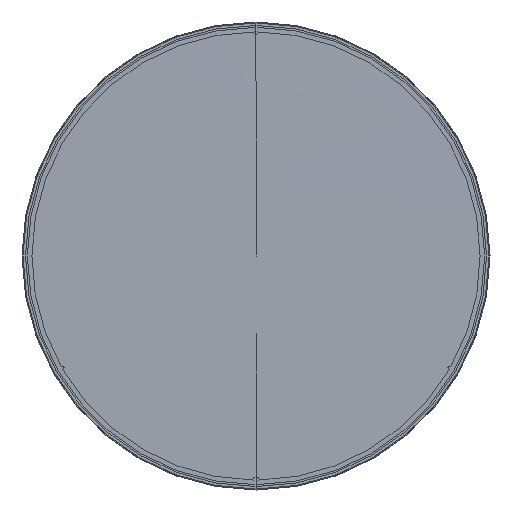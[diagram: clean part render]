
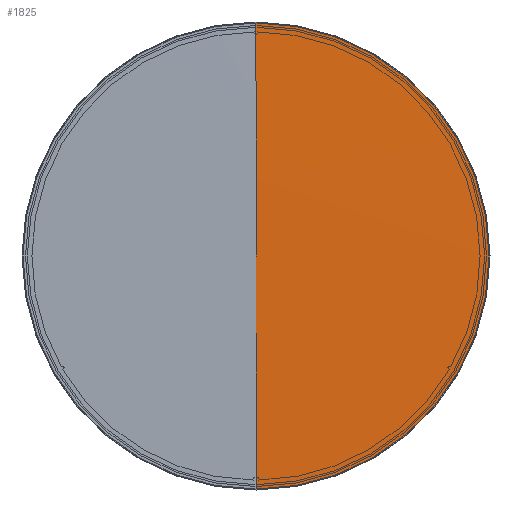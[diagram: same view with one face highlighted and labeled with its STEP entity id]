
A CAD part, front view. The second image highlights one B-rep face of the part: STEP entity #1825.
In plain terms, the highlighted spherical face has radius 12000 mm.
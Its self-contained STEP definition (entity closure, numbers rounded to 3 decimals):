
#1526=CARTESIAN_POINT('',(0.,-52.791,0.));
#1527=DIRECTION('',(0.,1.,0.));
#1528=DIRECTION('',(0.,0.,1.));
#1529=AXIS2_PLACEMENT_3D('',#1526,#1527,#1528);
#1536=CARTESIAN_POINT('',(0.,11946.7,0.));
#1537=DIRECTION('',(1.,0.,0.));
#1538=DIRECTION('',(0.,-1.,0.009));
#1539=AXIS2_PLACEMENT_3D('',#1536,#1537,#1538);
#1541=CARTESIAN_POINT('',(0.,11946.7,0.));
#1542=DIRECTION('',(-1.,0.,0.));
#1543=DIRECTION('',(0.,-1.,-0.009));
#1544=AXIS2_PLACEMENT_3D('',#1541,#1542,#1543);
#1806=CARTESIAN_POINT('',(0.,-52.791,
-110.523));
#1807=CARTESIAN_POINT('',(0.,-52.791,
110.523));
#1808=VERTEX_POINT('',#1806);
#1809=VERTEX_POINT('',#1807);
#1810=CARTESIAN_POINT('',(0.,-53.3,0.));
#1811=VERTEX_POINT('',#1810);
#1812=CARTESIAN_POINT('',(0.,11946.7,0.));
#1813=DIRECTION('',(0.,-1.,0.));
#1814=DIRECTION('',(0.,0.,1.));
#1815=AXIS2_PLACEMENT_3D('',#1812,#1813,#1814);
#1816=SPHERICAL_SURFACE('',#1815,12000.);
#1818=ORIENTED_EDGE('',*,*,#1817,.T.);
#1820=ORIENTED_EDGE('',*,*,#1819,.T.);
#1822=ORIENTED_EDGE('',*,*,#1821,.F.);
#1823=EDGE_LOOP('',(#1818,#1820,#1822));
#1824=FACE_OUTER_BOUND('',#1823,.F.);
#1825=ADVANCED_FACE('',(#1824),#1816,.T.);
#1530=CIRCLE('',#1529,110.523);
#1540=CIRCLE('',#1539,12000.);
#1545=CIRCLE('',#1544,12000.);
#1817=EDGE_CURVE('',#1809,#1808,#1530,.T.);
#1819=EDGE_CURVE('',#1808,#1811,#1545,.T.);
#1821=EDGE_CURVE('',#1809,#1811,#1540,.T.);
